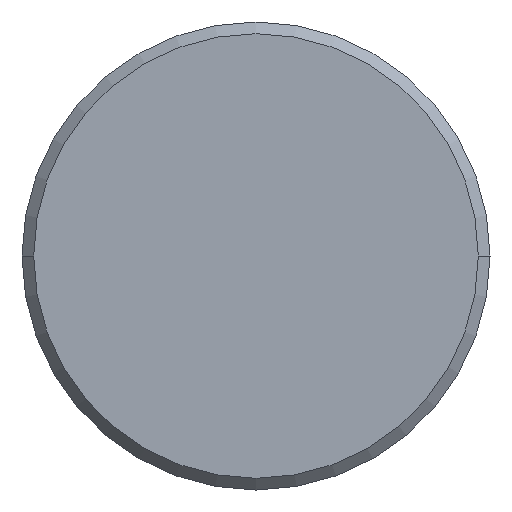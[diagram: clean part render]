
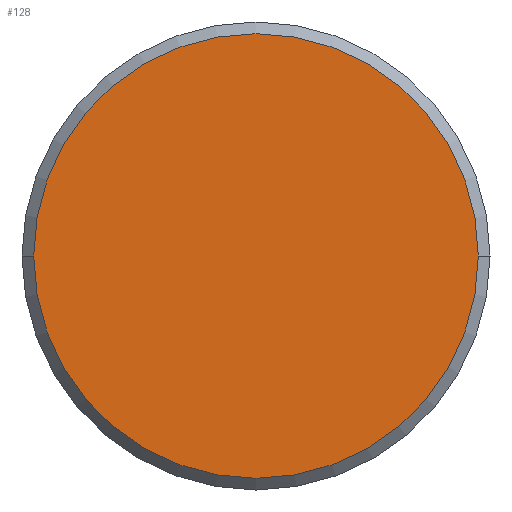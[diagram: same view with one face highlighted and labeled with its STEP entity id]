
A CAD part, left-side view. The second image highlights one B-rep face of the part: STEP entity #128.
In plain terms, the highlighted planar face has unit normal (-1, 0, 0).
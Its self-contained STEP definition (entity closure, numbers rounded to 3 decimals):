
#1=CARTESIAN_POINT('',(0.,0.,
0.));
#2=DIRECTION('',(-1.,0.,0.));
#3=DIRECTION('',(0.,-1.,0.));
#4=AXIS2_PLACEMENT_3D('',#1,#2,#3);
#6=CARTESIAN_POINT('',(0.,0.,0.));
#7=DIRECTION('',(-1.,0.,0.));
#8=DIRECTION('',(0.,1.,0.));
#9=AXIS2_PLACEMENT_3D('',#6,#7,#8);
#93=CARTESIAN_POINT('',(0.,-9.5,0.));
#94=CARTESIAN_POINT('',(0.,9.5,0.));
#95=VERTEX_POINT('',#93);
#96=VERTEX_POINT('',#94);
#117=CARTESIAN_POINT('',(0.,0.,0.));
#118=DIRECTION('',(1.,0.,0.));
#119=DIRECTION('',(0.,-1.,0.));
#120=AXIS2_PLACEMENT_3D('',#117,#118,#119);
#121=PLANE('',#120);
#123=ORIENTED_EDGE('',*,*,#122,.F.);
#125=ORIENTED_EDGE('',*,*,#124,.F.);
#126=EDGE_LOOP('',(#123,#125));
#127=FACE_OUTER_BOUND('',#126,.F.);
#128=ADVANCED_FACE('',(#127),#121,.F.);
#5=CIRCLE('',#4,9.5);
#10=CIRCLE('',#9,9.5);
#122=EDGE_CURVE('',#95,#96,#5,.T.);
#124=EDGE_CURVE('',#96,#95,#10,.T.);
